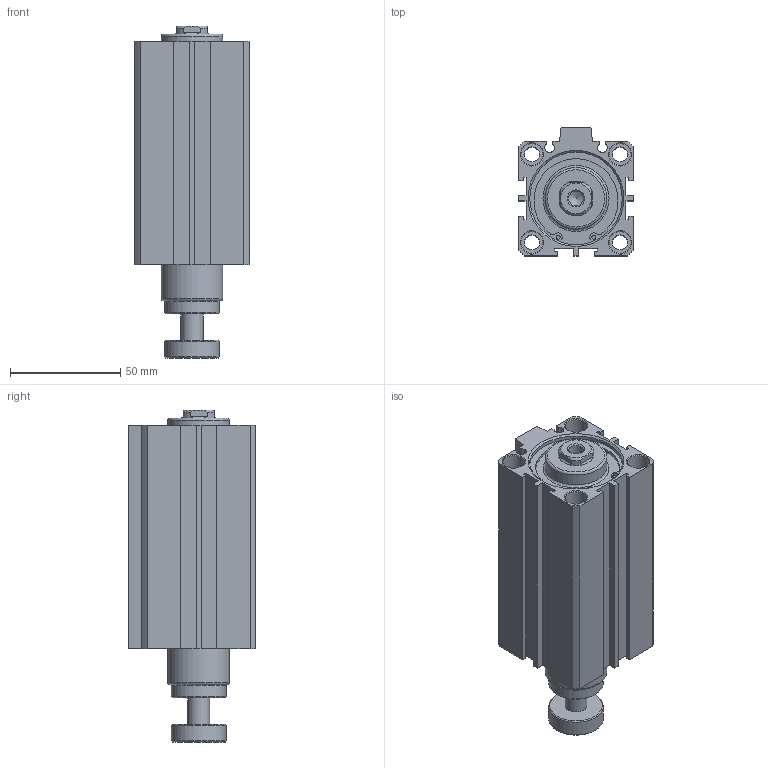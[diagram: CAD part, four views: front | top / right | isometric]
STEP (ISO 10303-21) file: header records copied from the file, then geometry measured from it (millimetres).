
FILE_DESCRIPTION((''),'2;1');
FILE_NAME('I:\3D電子目錄\氣缸\JDAR\JDAR\JDAR40\JDAR40x75.stp','2007-03-14T10:37:10',('662F206'),(''),'Autodesk Inventor 11','Autodesk Inventor 11','');
FILE_SCHEMA(('AUTOMOTIVE_DESIGN { 1 0 10303 214 1 1 1 1 }'));
Length unit declared in the file: millimetre
Products named in the file (3): JDAR40; R 形環 42
Assembly tree (3 placements, depth 2):
  JDAR40
    JDAR40
    R 形環 42  x2
Bounding box: 52 x 58 x 150.8 mm (x, y, z)
Volume: 258263.9 mm3; surface area: 53347.7 mm2
Topology: 3 solids, 3 shells, 172 faces, 405 edges, 263 vertices
Faces by surface type: plane 92, cylinder 51, cone 23, bspline 4, torus 2
Full cylindrical faces by diameter (mm): 1.9 x4, 2.2 x2, 6.8 x4, 10 x9, 25 x2, 28 x2, 42 x4, 44.5 x2
Entity records: 4475 total; most frequent: CARTESIAN_POINT 858, DIRECTION 758, ORIENTED_EDGE 634, EDGE_CURVE 317, AXIS2_PLACEMENT_3D 287, EDGE_LOOP 248, VERTEX_POINT 237, VECTOR 184
